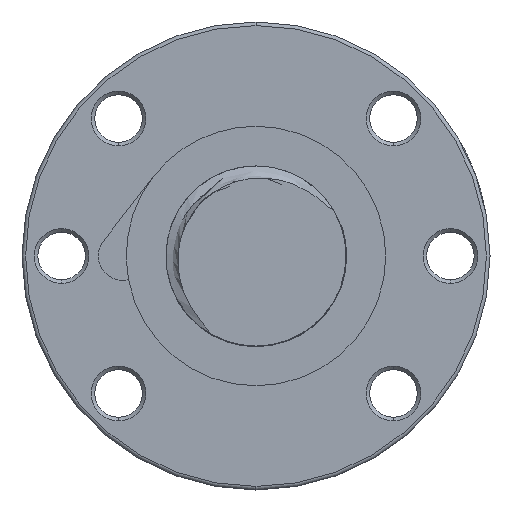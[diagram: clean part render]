
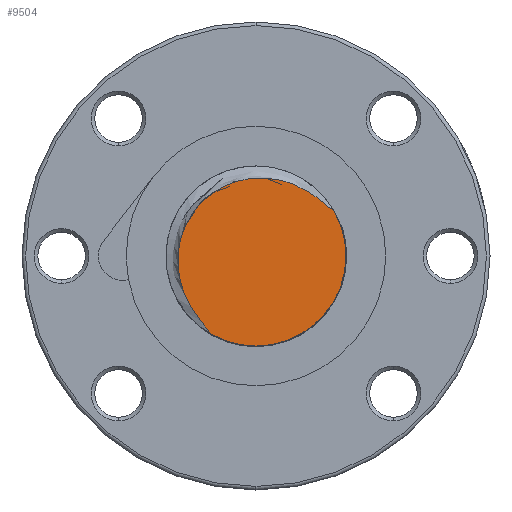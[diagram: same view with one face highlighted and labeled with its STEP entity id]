
A CAD part, left-side view. The second image highlights one B-rep face of the part: STEP entity #9504.
In plain terms, the highlighted planar face has unit normal (-1, 0, 0).
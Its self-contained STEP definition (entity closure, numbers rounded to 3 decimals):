
#9166 = VERTEX_POINT ( 'NONE', #23754 ) ;
#9205 = VERTEX_POINT ( 'NONE', #25101 ) ;
#9207 = EDGE_CURVE ( 'NONE', #9205, #9166, #25100, .T. ) ;
#9446 = EDGE_CURVE ( 'NONE', #9447, #9205, #20471, .T. ) ;
#9447 = VERTEX_POINT ( 'NONE', #19918 ) ;
#9483 = ORIENTED_EDGE ( 'NONE', *, *, #9207, .F. ) ;
#9504 = ADVANCED_FACE ( 'NONE', ( #24584 ), #24650, .F. ) ;
#9505 = EDGE_LOOP ( 'NONE', ( #9506, #9507, #9483 ) ) ;
#9506 = ORIENTED_EDGE ( 'NONE', *, *, #9446, .F. ) ;
#9507 = ORIENTED_EDGE ( 'NONE', *, *, #9508, .T. ) ;
#9508 = EDGE_CURVE ( 'NONE', #9447, #9166, #24645, .T. ) ;
#19918 = CARTESIAN_POINT ( 'NONE',  ( -95., -10.857, 6.195 ) ) ;
#19920 = DIRECTION ( 'NONE',  ( 0., 1., 0. ) ) ;
#19922 = DIRECTION ( 'NONE',  ( 1., 0., 0. ) ) ;
#19924 = CARTESIAN_POINT ( 'NONE',  ( -95., 0., 0. ) ) ;
#19925 = AXIS2_PLACEMENT_3D ( 'NONE', #19924, #19922, #19920 ) ;
#20471 = CIRCLE ( 'NONE', #19925, 12.5 ) ;
#23754 = CARTESIAN_POINT ( 'NONE',  ( -95., 6.195, -10.857 ) ) ;
#24584 = FACE_OUTER_BOUND ( 'NONE', #9505, .T. ) ;
#24627 = CARTESIAN_POINT ( 'NONE',  ( -95., -1.028, 10.875 ) ) ;
#24628 = CARTESIAN_POINT ( 'NONE',  ( -95., -2.296, 10.744 ) ) ;
#24629 = CARTESIAN_POINT ( 'NONE',  ( -95., -2.718, 10.678 ) ) ;
#24630 = CARTESIAN_POINT ( 'NONE',  ( -95., -3.56, 10.501 ) ) ;
#24631 = CARTESIAN_POINT ( 'NONE',  ( -95., -3.976, 10.389 ) ) ;
#24632 = CARTESIAN_POINT ( 'NONE',  ( -95., -5.194, 9.997 ) ) ;
#24633 = CARTESIAN_POINT ( 'NONE',  ( -95., -5.972, 9.656 ) ) ;
#24634 = CARTESIAN_POINT ( 'NONE',  ( -95., -7.094, 9.039 ) ) ;
#24635 = CARTESIAN_POINT ( 'NONE',  ( -95., -7.462, 8.815 ) ) ;
#24636 = CARTESIAN_POINT ( 'NONE',  ( -95., -8.177, 8.338 ) ) ;
#24637 = CARTESIAN_POINT ( 'NONE',  ( -95., -8.524, 8.086 ) ) ;
#24638 = CARTESIAN_POINT ( 'NONE',  ( -95., -9.201, 7.558 ) ) ;
#24639 = CARTESIAN_POINT ( 'NONE',  ( -95., -9.531, 7.283 ) ) ;
#24640 = CARTESIAN_POINT ( 'NONE',  ( -95., -10.022, 6.866 ) ) ;
#24641 = CARTESIAN_POINT ( 'NONE',  ( -95., -10.185, 6.727 ) ) ;
#24642 = CARTESIAN_POINT ( 'NONE',  ( -95., -10.515, 6.453 ) ) ;
#24643 = CARTESIAN_POINT ( 'NONE',  ( -95., -10.681, 6.317 ) ) ;
#24644 = CARTESIAN_POINT ( 'NONE',  ( -95., -10.857, 6.195 ) ) ;
#24645 = B_SPLINE_CURVE_WITH_KNOTS ( 'NONE', 3,
 ( #24644, #24643, #24642, #24641, #24640, #24639, #24638, #24637, #24636, #24635, #24634, #24633, #24632, #24631, #24630, #24629, #24628, #24627, #24703, #24702, #24701, #24700, #24699, #24698, #24697, #24696, #24695, #24694, #24693, #24692, #24691, #24690, #24689, #24688, #24687, #24686, #24685, #24684, #24683, #24682, #24681, #24680, #24679, #24678, #24677, #24676, #24675, #24674, #24673, #24672, #24671, #24670, #24669, #24668, #24667, #24666, #24665, #24664, #24663, #24662 ),
 .UNSPECIFIED., .F., .F.,
 ( 4, 2, 2, 2, 2, 2, 2, 2, 2, 2, 2, 2, 2, 2, 2, 2, 2, 2, 2, 2, 2, 2, 2, 2, 2, 2, 2, 2, 2, 4 ),
 ( 0.009, 0.01, 0.01, 0.011, 0.013, 0.014, 0.016, 0.018, 0.019, 0.022, 0.023, 0.024, 0.025, 0.027, 0.029, 0.03, 0.032, 0.033, 0.034, 0.037, 0.038, 0.039, 0.04, 0.042, 0.044, 0.045, 0.047, 0.048, 0.049, 0.049 ),
 .UNSPECIFIED. ) ;
#24646 = DIRECTION ( 'NONE',  ( 0., 0., -1. ) ) ;
#24647 = DIRECTION ( 'NONE',  ( 1., 0., 0. ) ) ;
#24648 = CARTESIAN_POINT ( 'NONE',  ( -95., 0., 0. ) ) ;
#24649 = AXIS2_PLACEMENT_3D ( 'NONE', #24648, #24647, #24646 ) ;
#24650 = PLANE ( 'NONE',  #24649 ) ;
#24662 = CARTESIAN_POINT ( 'NONE',  ( -95., 6.195, -10.857 ) ) ;
#24663 = CARTESIAN_POINT ( 'NONE',  ( -95., 6.318, -10.68 ) ) ;
#24664 = CARTESIAN_POINT ( 'NONE',  ( -95., 6.455, -10.513 ) ) ;
#24665 = CARTESIAN_POINT ( 'NONE',  ( -95., 6.73, -10.182 ) ) ;
#24666 = CARTESIAN_POINT ( 'NONE',  ( -95., 6.87, -10.018 ) ) ;
#24667 = CARTESIAN_POINT ( 'NONE',  ( -95., 7.288, -9.526 ) ) ;
#24668 = CARTESIAN_POINT ( 'NONE',  ( -95., 7.564, -9.195 ) ) ;
#24669 = CARTESIAN_POINT ( 'NONE',  ( -95., 8.092, -8.515 ) ) ;
#24670 = CARTESIAN_POINT ( 'NONE',  ( -95., 8.344, -8.168 ) ) ;
#24671 = CARTESIAN_POINT ( 'NONE',  ( -95., 8.822, -7.451 ) ) ;
#24672 = CARTESIAN_POINT ( 'NONE',  ( -95., 9.046, -7.083 ) ) ;
#24673 = CARTESIAN_POINT ( 'NONE',  ( -95., 9.663, -5.958 ) ) ;
#24674 = CARTESIAN_POINT ( 'NONE',  ( -95., 10.005, -5.177 ) ) ;
#24675 = CARTESIAN_POINT ( 'NONE',  ( -95., 10.397, -3.95 ) ) ;
#24676 = CARTESIAN_POINT ( 'NONE',  ( -95., 10.507, -3.531 ) ) ;
#24677 = CARTESIAN_POINT ( 'NONE',  ( -95., 10.682, -2.693 ) ) ;
#24678 = CARTESIAN_POINT ( 'NONE',  ( -95., 10.747, -2.271 ) ) ;
#24679 = CARTESIAN_POINT ( 'NONE',  ( -95., 10.834, -1.423 ) ) ;
#24680 = CARTESIAN_POINT ( 'NONE',  ( -95., 10.855, -0.996 ) ) ;
#24681 = CARTESIAN_POINT ( 'NONE',  ( -95., 10.851, -0.138 ) ) ;
#24682 = CARTESIAN_POINT ( 'NONE',  ( -95., 10.825, 0.295 ) ) ;
#24683 = CARTESIAN_POINT ( 'NONE',  ( -95., 10.677, 1.571 ) ) ;
#24684 = CARTESIAN_POINT ( 'NONE',  ( -95., 10.486, 2.402 ) ) ;
#24685 = CARTESIAN_POINT ( 'NONE',  ( -95., 10.062, 3.617 ) ) ;
#24686 = CARTESIAN_POINT ( 'NONE',  ( -95., 9.896, 4.018 ) ) ;
#24687 = CARTESIAN_POINT ( 'NONE',  ( -95., 9.525, 4.79 ) ) ;
#24688 = CARTESIAN_POINT ( 'NONE',  ( -95., 9.319, 5.163 ) ) ;
#24689 = CARTESIAN_POINT ( 'NONE',  ( -95., 8.865, 5.884 ) ) ;
#24690 = CARTESIAN_POINT ( 'NONE',  ( -95., 8.618, 6.232 ) ) ;
#24691 = CARTESIAN_POINT ( 'NONE',  ( -95., 8.082, 6.902 ) ) ;
#24692 = CARTESIAN_POINT ( 'NONE',  ( -95., 7.792, 7.225 ) ) ;
#24693 = CARTESIAN_POINT ( 'NONE',  ( -95., 6.883, 8.131 ) ) ;
#24694 = CARTESIAN_POINT ( 'NONE',  ( -95., 6.216, 8.661 ) ) ;
#24695 = CARTESIAN_POINT ( 'NONE',  ( -95., 5.124, 9.341 ) ) ;
#24696 = CARTESIAN_POINT ( 'NONE',  ( -95., 4.743, 9.549 ) ) ;
#24697 = CARTESIAN_POINT ( 'NONE',  ( -95., 3.97, 9.916 ) ) ;
#24698 = CARTESIAN_POINT ( 'NONE',  ( -95., 3.576, 10.077 ) ) ;
#24699 = CARTESIAN_POINT ( 'NONE',  ( -95., 2.772, 10.356 ) ) ;
#24700 = CARTESIAN_POINT ( 'NONE',  ( -95., 2.362, 10.473 ) ) ;
#24701 = CARTESIAN_POINT ( 'NONE',  ( -95., 1.527, 10.662 ) ) ;
#24702 = CARTESIAN_POINT ( 'NONE',  ( -95., 1.099, 10.734 ) ) ;
#24703 = CARTESIAN_POINT ( 'NONE',  ( -95., -0.179, 10.875 ) ) ;
#24994 = CARTESIAN_POINT ( 'NONE',  ( -95., 0., 0. ) ) ;
#24996 = AXIS2_PLACEMENT_3D ( 'NONE', #24994, #25011, #25004 ) ;
#25004 = DIRECTION ( 'NONE',  ( 0., 1., 0. ) ) ;
#25011 = DIRECTION ( 'NONE',  ( 1., 0., 0. ) ) ;
#25100 = CIRCLE ( 'NONE', #24996, 12.5 ) ;
#25101 = CARTESIAN_POINT ( 'NONE',  ( -95., 0., -12.5 ) ) ;
